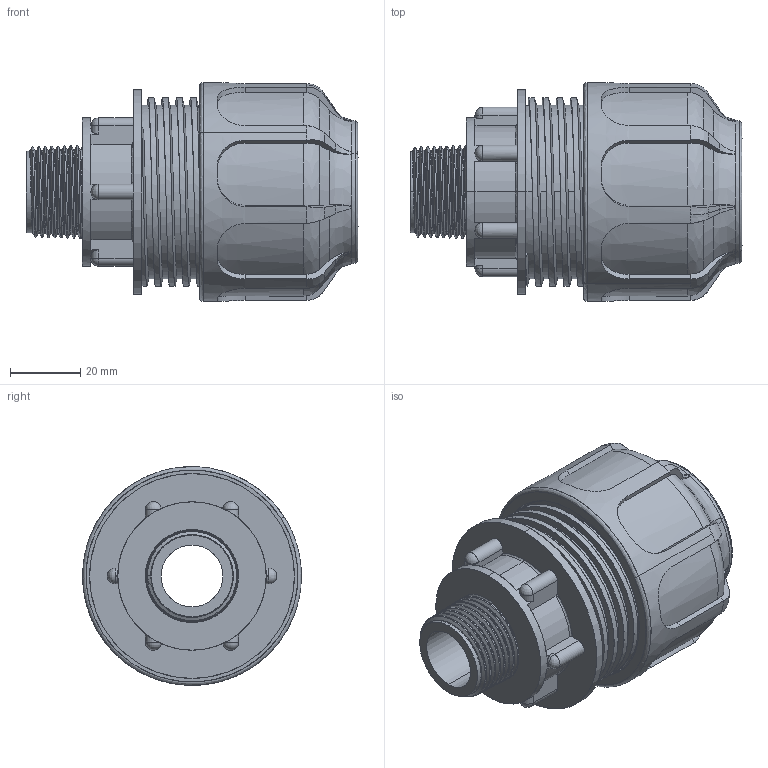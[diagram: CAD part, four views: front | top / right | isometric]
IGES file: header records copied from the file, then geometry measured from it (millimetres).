
Start section: SolidWorks IGES file using analytic representation for surfaces
Global section: file name: P:\DisegniUfficioTecnico\Articoli\ARTICOLI_3D\DISEGNI_STEP_IGS_SITO\02004\02004_IGS\02004.0525.IGS; native system: SolidWorks 2011; preprocessor: SolidWorks 2011; author: giacomo; date: 170522.155601; units: millimetre
Bounding box: 94.52 x 62.3 x 62.3 mm (x, y, z)
Surface area: 59543.6 mm2 (no closed solid volume)
Topology: 0 solids, 0 shells, 441 faces, 9849 edges, 9837 vertices
Faces by surface type: bspline 252, revolution 189
